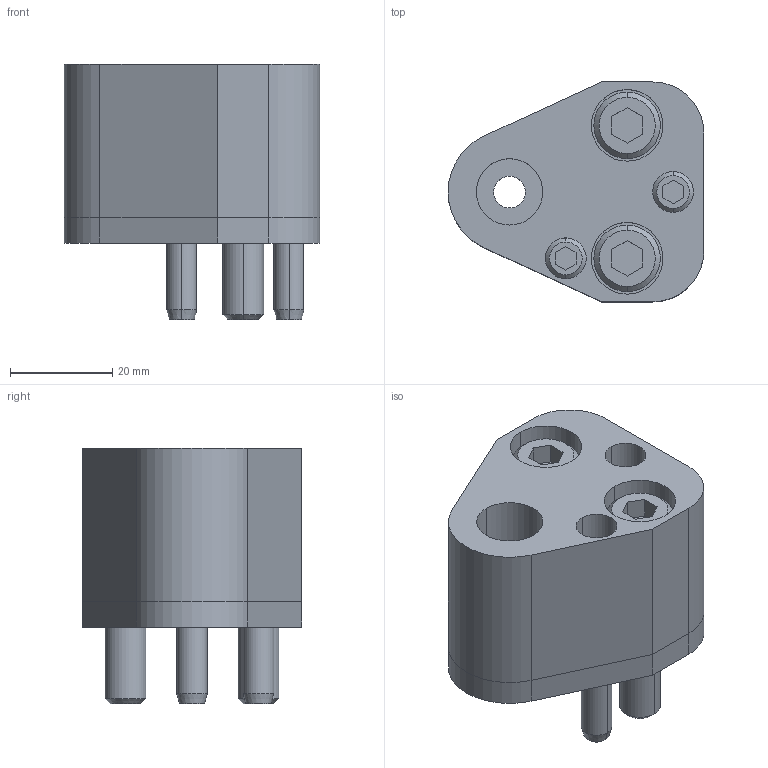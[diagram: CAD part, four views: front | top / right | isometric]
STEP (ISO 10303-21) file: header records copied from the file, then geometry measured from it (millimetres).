
FILE_DESCRIPTION(/* description */ (''),/* implementation_level */ '2;1');
FILE_NAME(/* name */ '3d_ap-ap13_02877_r00.stp',/* time_stamp */ '2011-01-10T14:17:46+09:00',/* author */ ('MISUMI'),/* organization */ (''),/* preprocessor_version */ 'ST-DEVELOPER v11',/* originating_system */ 'UGS - NX 5.0',/* authorisation */ '');
FILE_SCHEMA (('CONFIG_CONTROL_DESIGN'));
Length unit declared in the file: millimetre
Products named in the file (1): 3d_ap-ap13_02877_r00
Bounding box: 50 x 43 x 50 mm (x, y, z)
Volume: 52022.8 mm3; surface area: 21567.9 mm2
Topology: 8 solids, 8 shells, 155 faces, 346 edges, 222 vertices
Faces by surface type: plane 67, cylinder 62, cone 26
Entity records: 4474 total; most frequent: DIRECTION 804, CARTESIAN_POINT 772, ORIENTED_EDGE 692, EDGE_CURVE 346, AXIS2_PLACEMENT_3D 306, VERTEX_POINT 222, LINE 192, VECTOR 192
